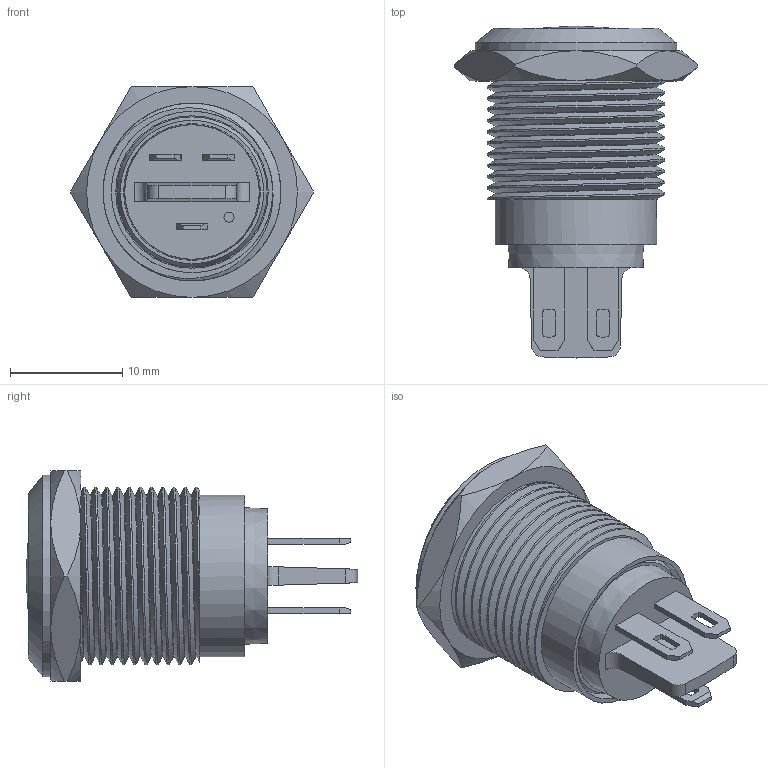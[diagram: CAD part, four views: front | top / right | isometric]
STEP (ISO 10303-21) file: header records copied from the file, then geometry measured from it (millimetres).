
FILE_DESCRIPTION(/* description */ (''),/* implementation_level */ '2;1');
FILE_NAME(/* name */ 'GQ16A-SD-J 双色信号灯.stp',/* time_stamp */ '2024-11-26T16:48:19+08:00',/* author */ (''),/* organization */ (''),/* preprocessor_version */ 'ST-DEVELOPER v19.4',/* originating_system */ 'SIEMENS PLM Software NX2306.1700',/* authorisation */ '');
FILE_SCHEMA (('AUTOMOTIVE_DESIGN { 1 0 10303 214 3 1 1 1 }'));
Length unit declared in the file: millimetre
Products named in the file (1): GQ16A双色信号灯
Bounding box: 21.71 x 29.6 x 18.8 mm (x, y, z)
Volume: 1894 mm3; surface area: 4471.5 mm2
Topology: 7 solids, 7 shells, 185 faces, 482 edges, 317 vertices
Faces by surface type: plane 114, cylinder 49, cone 17, bspline 3, sphere 2
Full cylindrical faces by diameter (mm): 9.5 x1, 11.5 x1, 11.65 x1, 11.7 x1, 13.3 x1, 13.4 x1, 13.6 x1, 14.4 x14, 15.85 x1, 18 x1
Entity records: 9332 total; most frequent: CARTESIAN_POINT 5152, ORIENTED_EDGE 838, DIRECTION 814, EDGE_CURVE 419, LINE 292, VECTOR 292, VERTEX_POINT 284, AXIS2_PLACEMENT_3D 261
